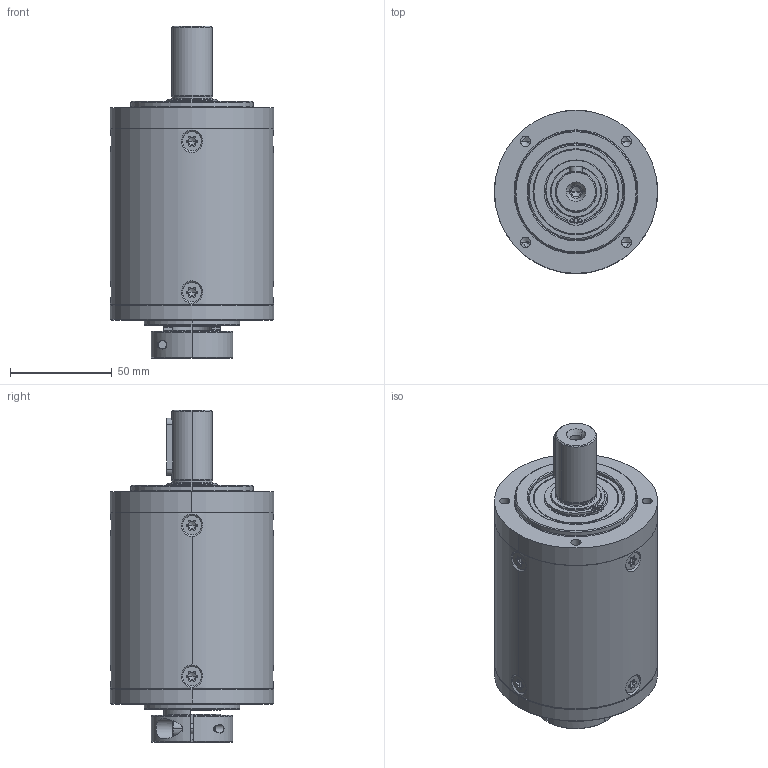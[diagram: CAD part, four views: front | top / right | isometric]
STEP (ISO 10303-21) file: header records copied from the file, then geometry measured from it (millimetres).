
FILE_DESCRIPTION (( 'STEP AP214' ), '1' );
FILE_NAME ('RPS080 2-ST.STEP', '2023-08-02T13:20:06', ( '' ), ( '' ), 'SwSTEP 2.0', 'SolidWorks 2021', '' );
FILE_SCHEMA (( 'AUTOMOTIVE_DESIGN' ));
Length unit declared in the file: millimetre
Products named in the file (1): RPS080 2-ST
Bounding box: 80 x 80 x 162.8 mm (x, y, z)
Volume: 553224.9 mm3; surface area: 48919.2 mm2
Topology: 1 solids, 1 shells, 465 faces, 1245 edges, 781 vertices
Faces by surface type: cylinder 279, cone 105, plane 62, torus 19
Entity records: 21560 total; most frequent: CARTESIAN_POINT 5201, DIRECTION 2422, ORIENTED_EDGE 2406, EDGE_CURVE 1203, AXIS2_PLACEMENT_3D 994, VERTEX_POINT 781, CIRCLE 528, EDGE_LOOP 514
